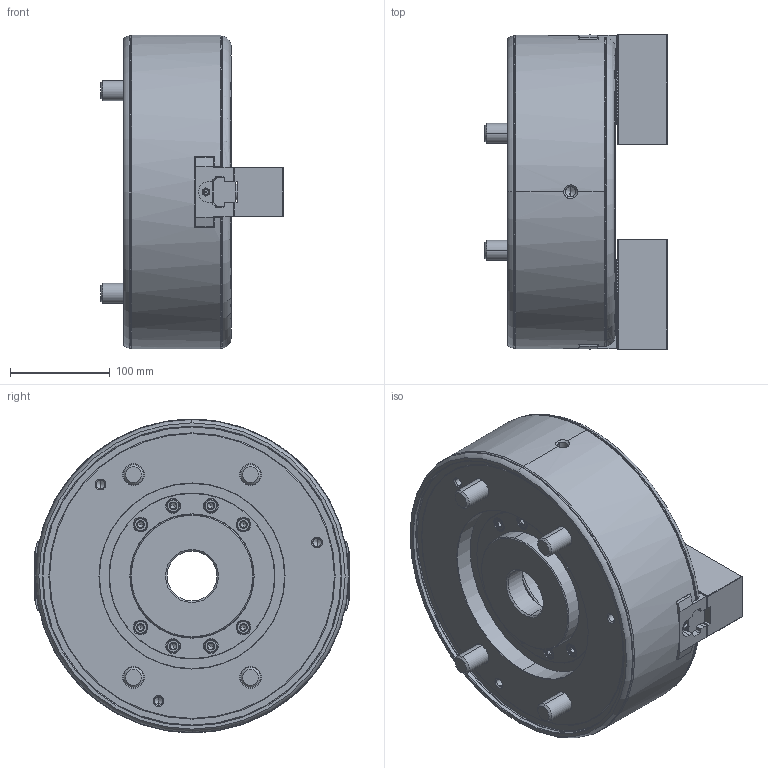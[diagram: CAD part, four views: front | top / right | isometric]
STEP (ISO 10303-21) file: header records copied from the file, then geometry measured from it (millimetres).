
FILE_DESCRIPTION (( 'STEP AP214' ), '1' );
FILE_NAME ('DEV-BRT12-OUTSIDE_VIEW_HUL.STEP', '2024-03-04T01:51:15', ( '' ), ( '' ), 'SwSTEP 2.0', 'SolidWorks 2022', '' );
FILE_SCHEMA (( 'AUTOMOTIVE_DESIGN' ));
Length unit declared in the file: millimetre
Products named in the file (9): DEV-BRT12-OUTSIDE_VIEW_HUL; Part1^DEV-BRT12-クミタテ; DEV-BRT12-Tナット; DEV-BRT12-SB12N1 ソフトジョー; DEV-BRT12-カバー; DEV-BRT12-Bアナツキボタン M6×10; DEV-BRT12-Bアナツキ M16×35; DEV-BRT12-ドローナット; DEV-BRT12-Bアナツキ M20×110
Assembly tree (19 placements, depth 2):
  DEV-BRT12-OUTSIDE_VIEW_HUL
    DEV-BRT12-ドローナット
    DEV-BRT12-SB12N1 ソフトジョー  x2
    DEV-BRT12-Tナット  x2
    DEV-BRT12-カバー
    DEV-BRT12-Bアナツキ M16×35  x4
    DEV-BRT12-Bアナツキボタン M6×10  x4
    DEV-BRT12-Bアナツキ M20×110  x4
    Part1^DEV-BRT12-クミタテ
Bounding box: 183 x 316.74 x 315 mm (x, y, z)
Volume: 7359008.9 mm3; surface area: 588818.6 mm2
Topology: 19 solids, 34 shells, 3565 faces, 9828 edges, 6403 vertices
Faces by surface type: plane 2562, cylinder 381, cone 352, bspline 190, torus 76, sphere 4
Entity records: 98491 total; most frequent: CARTESIAN_POINT 26374, ORIENTED_EDGE 15622, DIRECTION 13517, EDGE_CURVE 7811, VECTOR 6031, LINE 6031, VERTEX_POINT 5118, AXIS2_PLACEMENT_3D 3743
